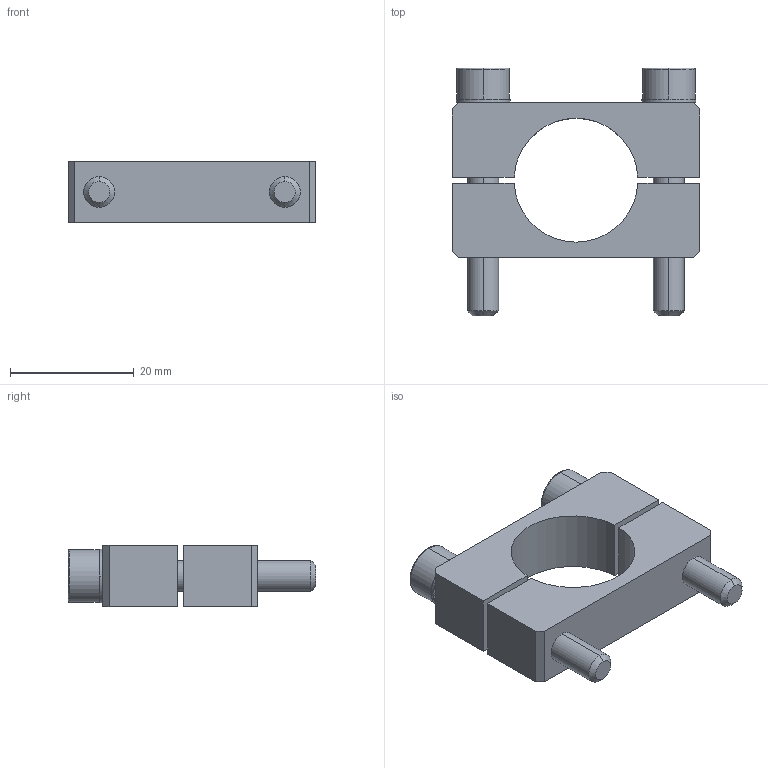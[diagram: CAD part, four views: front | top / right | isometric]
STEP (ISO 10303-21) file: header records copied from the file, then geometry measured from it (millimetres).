
FILE_DESCRIPTION (( 'STEP AP214' ), '1' );
FILE_NAME ('SMBK1-20T10T.STEP', '2022-12-30T05:19:57', ( 'Windows User' ), ( 'P R C' ), 'SwSTEP 2.0', 'SolidWorks 2018', '' );
FILE_SCHEMA (( 'AUTOMOTIVE_DESIGN' ));
Length unit declared in the file: millimetre
Products named in the file (1): SMBK1-20T10T
Bounding box: 40 x 40 x 10 mm (x, y, z)
Volume: 7242.2 mm3; surface area: 6146 mm2
Topology: 6 solids, 6 shells, 456 faces, 1308 edges, 864 vertices
Faces by surface type: plane 422, cylinder 26, cone 4, bspline 4
Entity records: 20335 total; most frequent: CARTESIAN_POINT 2899, DIRECTION 2630, ORIENTED_EDGE 2616, EDGE_CURVE 1308, AXIS2_PLACEMENT_3D 877, VECTOR 876, LINE 876, VERTEX_POINT 864
